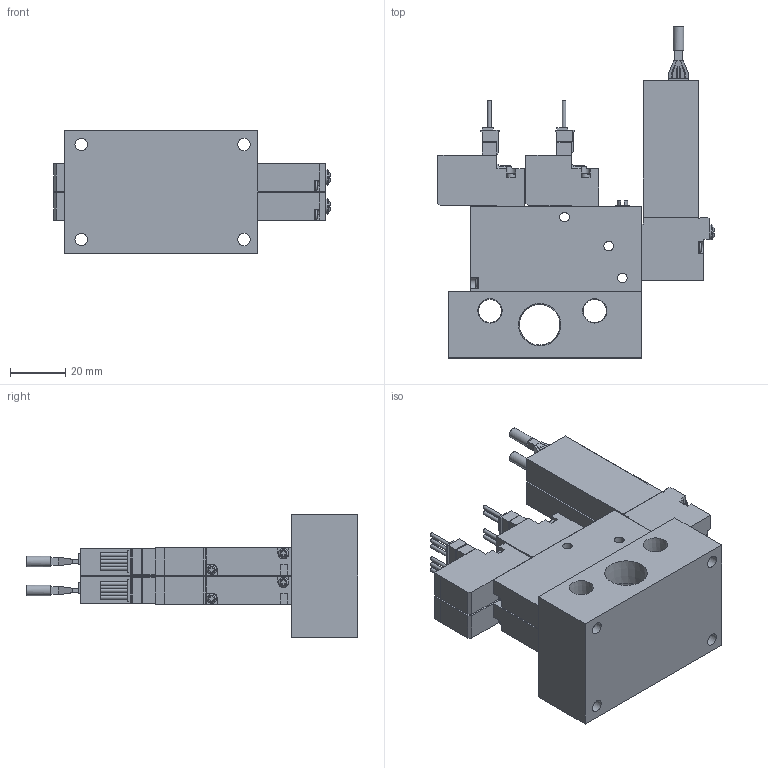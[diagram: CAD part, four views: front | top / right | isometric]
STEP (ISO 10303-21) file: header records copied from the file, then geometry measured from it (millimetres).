
FILE_DESCRIPTION(('STEP AP203'),'1');
FILE_NAME('BMPV42MV9.V9P5W202.stp','2025-04-30T01:24:32',(' '),(' '),'Spatial InterOp 3D',' ',' ');
FILE_SCHEMA(('CONFIG_CONTROL_DESIGN'));
Length unit declared in the file: millimetre
Products named in the file (6): BMPV42MV9.V9P5W202; VACUUM VALVE FUNCTION MPV42-W; VACUUM SENSOR MPV42-V9; VACUUM VALVE FUNCTION MPV42-A; UNIT-MPV42; MPV42-M20R-1
Assembly tree (9 placements, depth 2):
  BMPV42MV9.V9P5W202
    VACUUM VALVE FUNCTION MPV42-W  x2
    VACUUM SENSOR MPV42-V9  x2
    VACUUM VALVE FUNCTION MPV42-A  x2
    UNIT-MPV42  x2
    MPV42-M20R-1
Bounding box: 100.35 x 120.3 x 44.5 mm (x, y, z)
Volume: 149069.2 mm3; surface area: 49975.9 mm2
Topology: 9 solids, 9 shells, 785 faces, 2123 edges, 1406 vertices
Faces by surface type: plane 610, cylinder 141, cone 14, sphere 10, torus 10
Full cylindrical faces by diameter (mm): 1.4 x10, 1.8 x2, 2.2 x4, 3 x8, 3.5 x22, 3.8 x2, 4.134 x4, 4.5 x4, 5 x2, 5.5 x2, 8.441 x2, 14.744 x1
Entity records: 12690 total; most frequent: CARTESIAN_POINT 2413, ORIENTED_EDGE 2016, DIRECTION 2008, EDGE_CURVE 1008, LINE 788, VECTOR 788, VERTEX_POINT 697, AXIS2_PLACEMENT_3D 610
